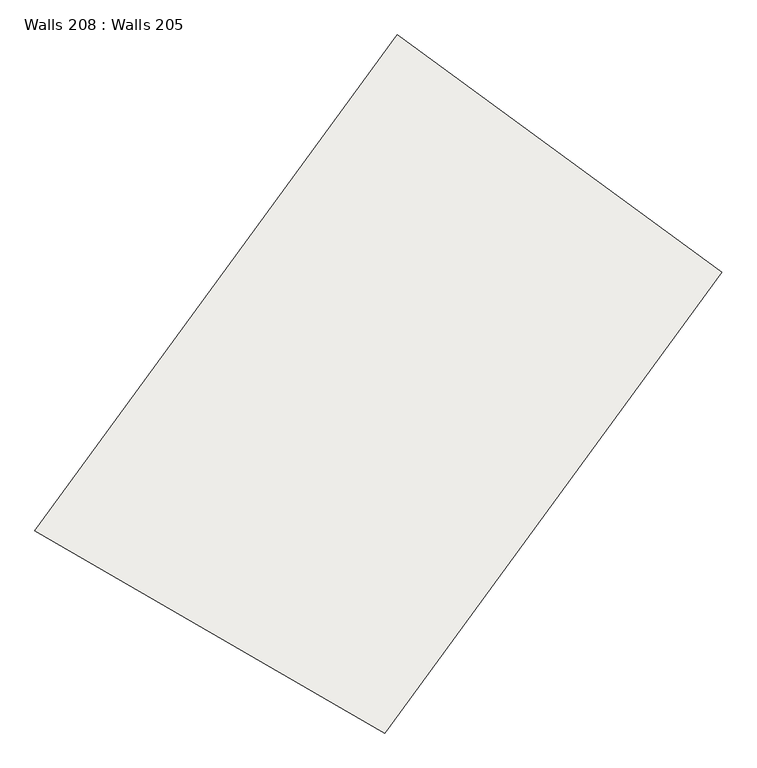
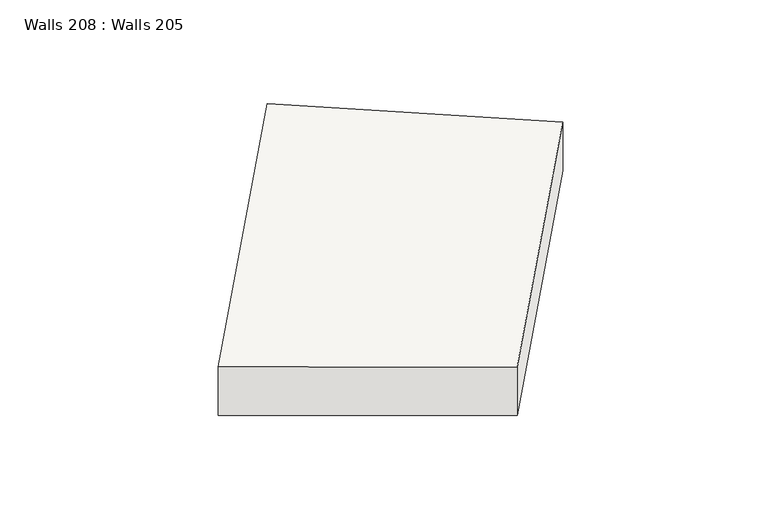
"""IFC4 building model written with IfcOpenShell, lengths in millimetres: slab geometry, Walls 208 : Walls 205."""

from ifc_helpers import new_model, si_unit, origin, place, context, project, spatial, faceted_brep, source, transform, mapped, element, save


def walls_208_walls_205_4dff5b80(model_context):
    return source(origin(), model_context, "Body", "Brep", [
        faceted_brep([(435614.355214, 391467.8235845, 647223.0), (438439.3769453, 389401.6066991, 647223.0), (438439.3769453, 389401.6066991, 646523.0), (435614.355214, 391467.8235845, 646523.0), (432457.2675607, 387151.3158196, 647157.0), (435503.3677251, 385387.3669983, 647161.6217205), (432457.2675607, 387151.3158196, 646457.0), (435503.3677251, 385387.3669983, 646461.6217205)], [[[0, 1, 2, 3]], [[1, 0, 4, 5]], [[5, 4, 6, 7]], [[0, 3, 6, 4]], [[3, 2, 7, 6]], [[2, 1, 5, 7]]]),
    ])


if __name__ == "__main__":
    model = new_model("IFC4")
    model_context = context("Model", 3, world=origin())
    ifc_project = project(units=[si_unit("LENGTHUNIT", "METRE", prefix="MILLI")], contexts=[model_context])
    site = spatial("IfcSite", under=ifc_project)
    building = spatial("IfcBuilding", under=site)
    placement = place(None, origin())
    walls_208_walls_205_shape = walls_208_walls_205_4dff5b80(model_context)
    element("IfcSlab", 1, ObjectType="Walls 208 : Walls 205", at=placement, inside=building, context=model_context, shape_type="MappedRepresentation", body=[
        mapped(walls_208_walls_205_shape, transform((0.0, 0.0, 0.0), x_axis=(1.0, 0.0, 0.0), y_axis=(0.0, 1.0, 0.0), z_axis=(0.0, 0.0, 1.0))),
    ])
    save(model, "model.ifc")
